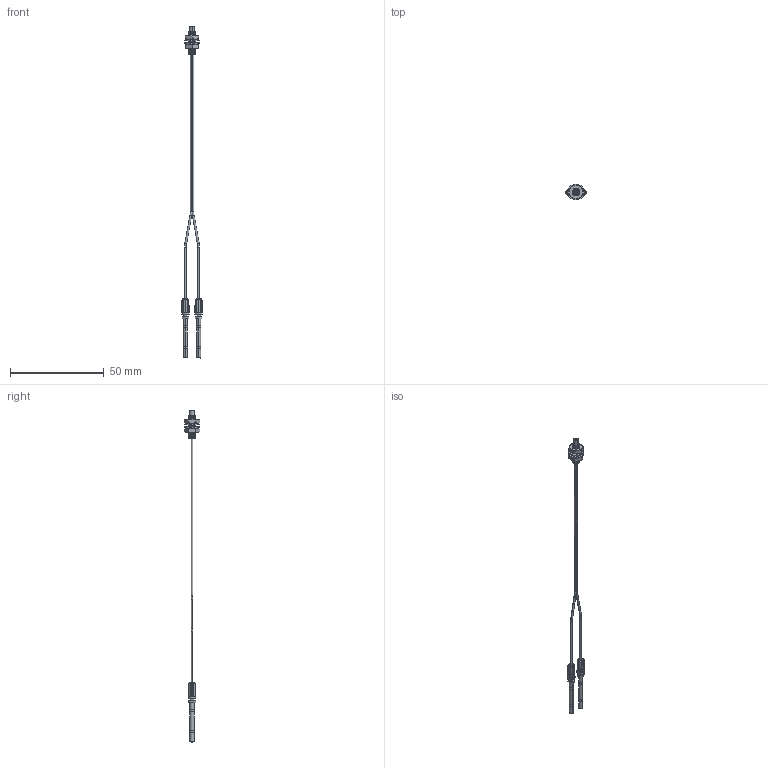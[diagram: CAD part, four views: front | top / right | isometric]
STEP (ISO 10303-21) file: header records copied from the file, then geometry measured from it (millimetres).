
FILE_DESCRIPTION (( 'STEP AP214' ), '1' );
FILE_NAME ('FD-420-05_FD-420-05R.STEP', '2019-06-18T02:33:55', ( '' ), ( '' ), 'SwSTEP 2.0', 'SolidWorks 2018', '' );
FILE_SCHEMA (( 'AUTOMOTIVE_DESIGN' ));
Length unit declared in the file: millimetre
Products named in the file (1): FD-420-05_FD-420-05R
Bounding box: 11 x 8.5 x 177.01 mm (x, y, z)
Volume: 870.1 mm3; surface area: 2590.5 mm2
Topology: 7 solids, 7 shells, 384 faces, 953 edges, 593 vertices
Faces by surface type: plane 159, cylinder 142, cone 52, torus 20, bspline 11
Entity records: 15936 total; most frequent: CARTESIAN_POINT 6830, ORIENTED_EDGE 1906, DIRECTION 1761, EDGE_CURVE 953, AXIS2_PLACEMENT_3D 698, VERTEX_POINT 593, EDGE_LOOP 410, ADVANCED_FACE 384
